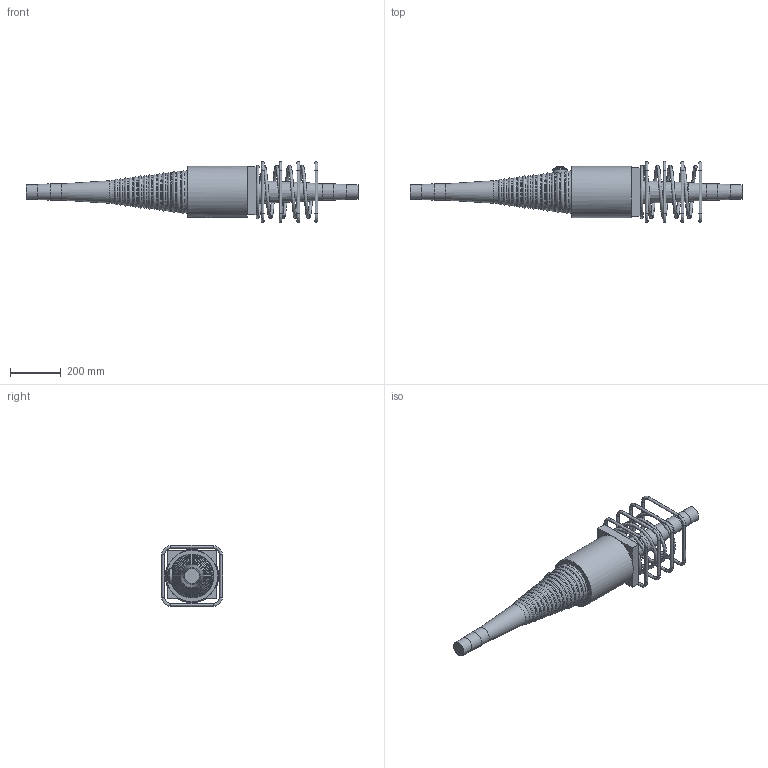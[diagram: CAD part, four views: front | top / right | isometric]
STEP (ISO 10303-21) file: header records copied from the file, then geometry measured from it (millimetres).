
FILE_DESCRIPTION(/* description */ (''),/* implementation_level */ '2;1');
FILE_NAME(/* name */ 'Z:\04 Publications\05 Give-out\BBR\6_3D_Models\BBR VT CONA CMI\BBR VT CONA CMI SP\00606\BBR VT CONA CMI SP 606_Coupler H Assembly_CS-34,28.stp',/* time_stamp */ '2017-05-10T08:42:29+02:00',/* author */ ('IP'),/* organization */ (''),/* preprocessor_version */ 'ST-DEVELOPER v16.1',/* originating_system */ 'Autodesk Inventor 2016',/* authorisation */ '');
FILE_SCHEMA (('AUTOMOTIVE_DESIGN { 1 0 10303 214 3 1 1 }'));
Length unit declared in the file: millimetre
Products named in the file (1): BBR VT CONA CMI SP 606_Coupler H Assembly_CS-34,28
Bounding box: 1305.87 x 240 x 240 mm (x, y, z)
Volume: 16753417.3 mm3; surface area: 779964.8 mm2
Topology: 6 solids, 6 shells, 846 faces, 2192 edges, 1416 vertices
Faces by surface type: bspline 368, plane 293, cylinder 86, torus 70, cone 17, sphere 12
Full cylindrical faces by diameter (mm): 12 x16, 34 x1, 57 x1, 59 x2, 64 x2, 203 x1
Entity records: 34096 total; most frequent: CARTESIAN_POINT 15724, ORIENTED_EDGE 4182, DIRECTION 2768, EDGE_CURVE 2089, VERTEX_POINT 1412, EDGE_LOOP 1013, AXIS2_PLACEMENT_3D 935, LINE 898
